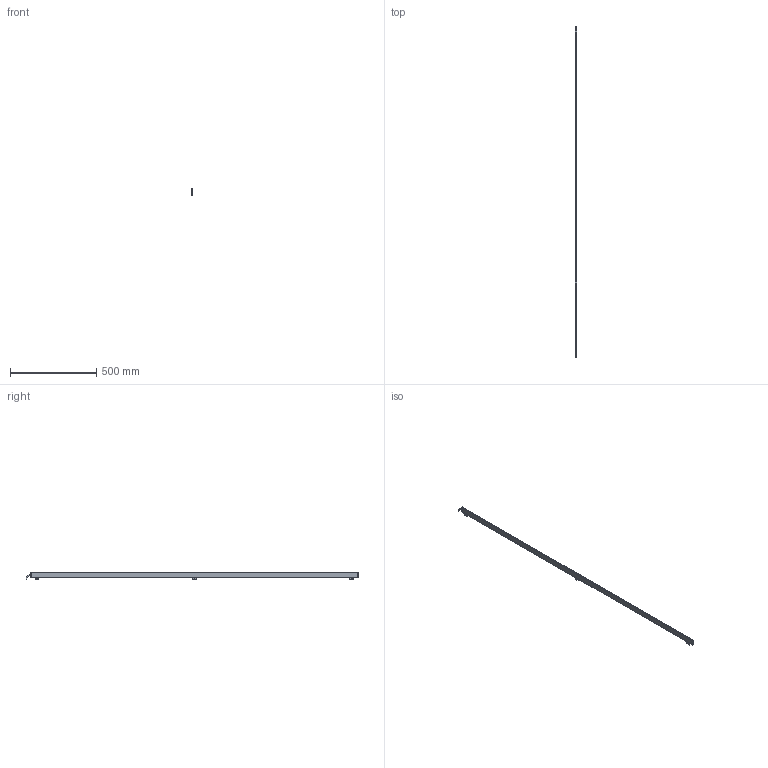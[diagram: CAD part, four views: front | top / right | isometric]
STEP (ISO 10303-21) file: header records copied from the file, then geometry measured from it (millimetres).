
FILE_DESCRIPTION (( 'STEP AP214' ), '1' );
FILE_NAME ('ILG-N-K1-1900mm.STEP', '2017-07-10T13:36:06', ( '' ), ( '' ), 'SwSTEP 2.0', 'SolidWorks 2016', '' );
FILE_SCHEMA (( 'AUTOMOTIVE_DESIGN' ));
Length unit declared in the file: millimetre
Products named in the file (1): ILG-N-K1-1900mm
Bounding box: 10.22 x 1928.25 x 42.41 mm (x, y, z)
Volume: 213644.7 mm3; surface area: 316832.9 mm2
Topology: 12 solids, 12 shells, 532 faces, 1348 edges, 836 vertices
Faces by surface type: plane 296, cylinder 162, cone 64, torus 10
Entity records: 21865 total; most frequent: CARTESIAN_POINT 2865, DIRECTION 2794, ORIENTED_EDGE 2680, EDGE_CURVE 1340, AXIS2_PLACEMENT_3D 973, LINE 848, VECTOR 848, VERTEX_POINT 836
